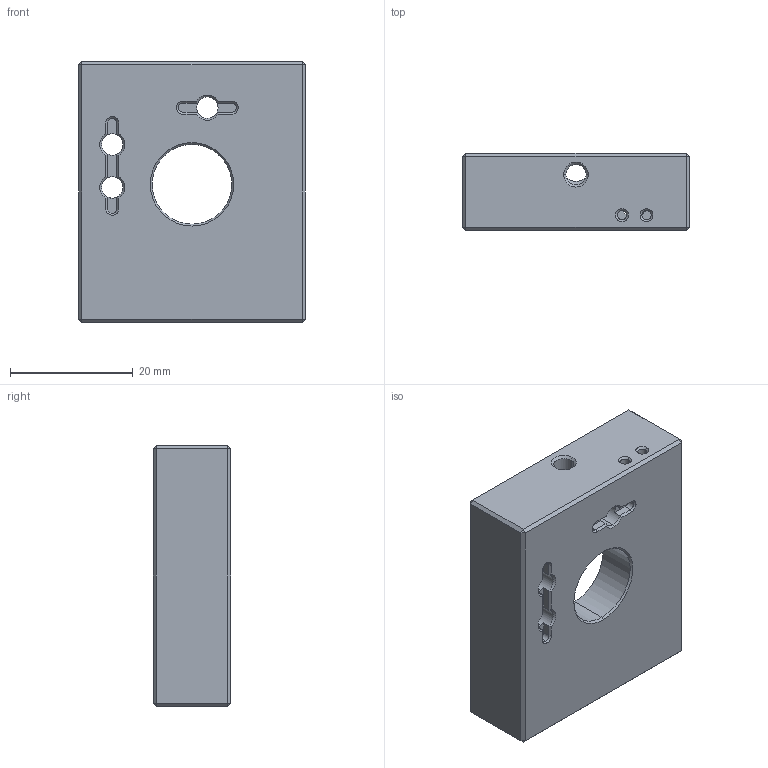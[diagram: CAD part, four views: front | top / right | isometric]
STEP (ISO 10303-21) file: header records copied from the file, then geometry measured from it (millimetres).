
FILE_DESCRIPTION (( 'STEP AP214' ), '1' );
FILE_NAME ('隅啣.STEP', '2026-07-11T01:24:32', ( '' ), ( '' ), 'SwSTEP 2.0', 'SolidWorks 2024', '' );
FILE_SCHEMA (( 'AUTOMOTIVE_DESIGN' ));
Length unit declared in the file: millimetre
Products named in the file (1): 定板
Bounding box: 37 x 12.6 x 42.5 mm (x, y, z)
Volume: 10356.4 mm3; surface area: 6717.9 mm2
Topology: 1 solids, 1 shells, 160 faces, 404 edges, 240 vertices
Faces by surface type: plane 82, cylinder 41, cone 37
Entity records: 4800 total; most frequent: DIRECTION 859, CARTESIAN_POINT 851, ORIENTED_EDGE 804, EDGE_CURVE 402, AXIS2_PLACEMENT_3D 312, VERTEX_POINT 240, VECTOR 235, LINE 235
